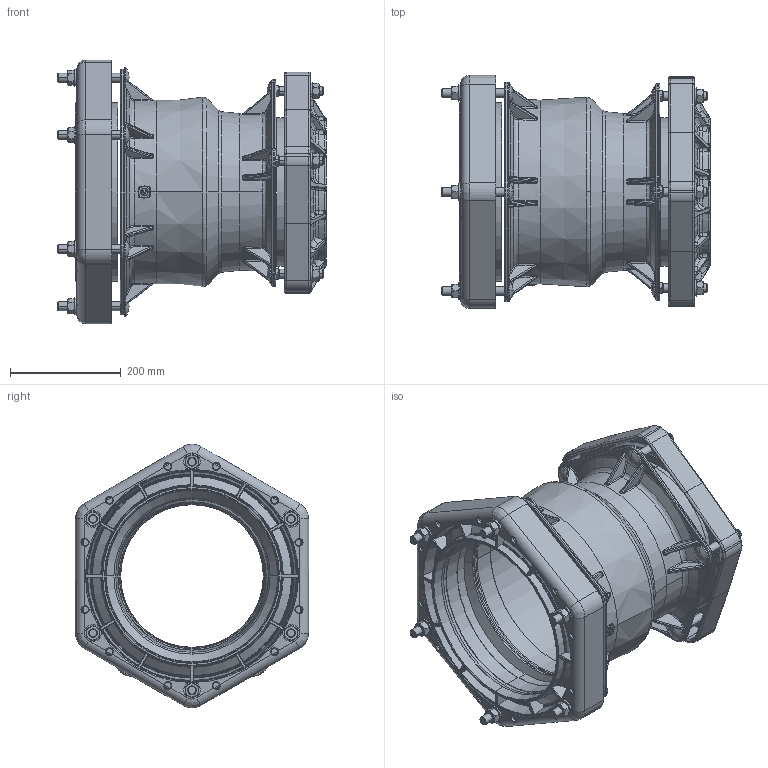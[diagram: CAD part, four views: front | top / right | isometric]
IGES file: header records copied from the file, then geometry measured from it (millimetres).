
Global section: file name: No Iges File Name specified; native system: AutoDesk Inventor R12.0; preprocessor: AutoDesk Inventor Iges Exporter R12.0; date: 20120503.123333; units: millimetre
Bounding box: 483.83 x 420.49 x 475.68 mm (x, y, z)
Volume: 5890056.7 mm3; surface area: 1772867.3 mm2
Topology: 1 solids, 1 shells, 2728 faces, 7314 edges, 4614 vertices
Faces by surface type: bspline 656, plane 635, revolution 571, cone 429, cylinder 326, torus 111
